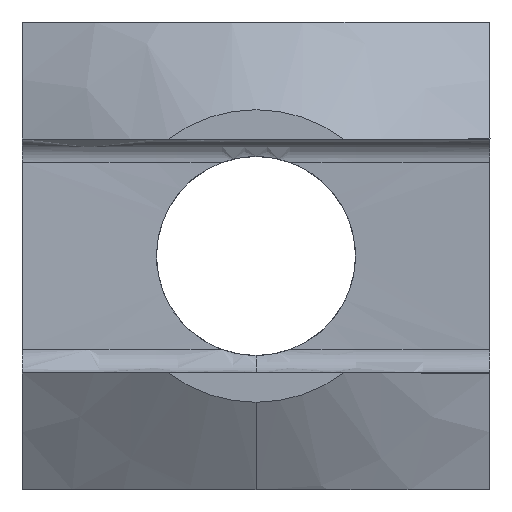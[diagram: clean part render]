
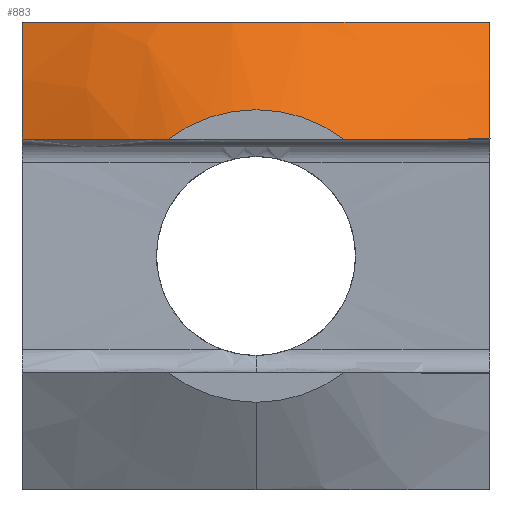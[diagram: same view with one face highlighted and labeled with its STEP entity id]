
A CAD part, left-side view. The second image highlights one B-rep face of the part: STEP entity #883.
In plain terms, the highlighted conical face has half-angle 60 degrees and reference radius 11.352 mm.
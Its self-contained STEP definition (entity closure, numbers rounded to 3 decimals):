
#47 = CARTESIAN_POINT ( 'NONE',  ( -8.555, 6.367, 4. ) ) ;
#48 = CARTESIAN_POINT ( 'NONE',  ( -6.355, -8., 8. ) ) ;
#51 = CARTESIAN_POINT ( 'NONE',  ( -10., 3., 4. ) ) ;
#60 = CARTESIAN_POINT ( 'NONE',  ( -8.143, 7.185, 4. ) ) ;
#63 = VERTEX_POINT ( 'NONE', #607 ) ;
#67 = ORIENTED_EDGE ( 'NONE', *, *, #988, .T. ) ;
#86 = CARTESIAN_POINT ( 'NONE',  ( -6.874, 8., 6.688 ) ) ;
#97 = CARTESIAN_POINT ( 'NONE',  ( -8.216, -1.371, 8. ) ) ;
#99 = CARTESIAN_POINT ( 'NONE',  ( -7.348, 5.424, 8. ) ) ;
#105 = CARTESIAN_POINT ( 'NONE',  ( -7.723, 8., 4. ) ) ;
#167 = CONICAL_SURFACE ( 'NONE', #1252, 11.352, 1.047 ) ;
#174 = VERTEX_POINT ( 'NONE', #219 ) ;
#196 = CARTESIAN_POINT ( 'NONE',  ( -7.873, 3.431, 8. ) ) ;
#219 = CARTESIAN_POINT ( 'NONE',  ( -7.723, -8., 4. ) ) ;
#239 = CARTESIAN_POINT ( 'NONE',  ( -10., 3., 4. ) ) ;
#257 = CARTESIAN_POINT ( 'NONE',  ( -7.546, -8., 4.684 ) ) ;
#261 = B_SPLINE_CURVE_WITH_KNOTS ( 'NONE', 3,
 ( #1183, #60, #47, #468, #1178, #984, #1286, #51 ),
 .UNSPECIFIED., .F., .F.,
 ( 4, 2, 2, 4 ),
 ( 0., 0.003, 0.004, 0.005 ),
 .UNSPECIFIED. ) ;
#275 = B_SPLINE_CURVE_WITH_KNOTS ( 'NONE', 3,
 ( #105, #1033, #429, #86, #1138, #531 ),
 .UNSPECIFIED., .F., .F.,
 ( 4, 2, 4 ),
 ( 0., 0.002, 0.004 ),
 .UNSPECIFIED. ) ;
#287 = CARTESIAN_POINT ( 'NONE',  ( -6.878, 6.719, 8. ) ) ;
#311 = CARTESIAN_POINT ( 'NONE',  ( -6.355, -8., 8. ) ) ;
#319 = CARTESIAN_POINT ( 'NONE',  ( -8.268, 0.344, 8. ) ) ;
#355 = EDGE_CURVE ( 'NONE', #892, #174, #357, .T. ) ;
#357 = B_SPLINE_CURVE_WITH_KNOTS ( 'NONE', 3,
 ( #557, #1280, #885, #979, #257, #782 ),
 .UNSPECIFIED., .F., .F.,
 ( 4, 2, 4 ),
 ( 0., 0.002, 0.004 ),
 .UNSPECIFIED. ) ;
#374 = CIRCLE ( 'NONE', #911, 5. ) ;
#375 = EDGE_CURVE ( 'NONE', #868, #1289, #374, .T. ) ;
#408 = EDGE_LOOP ( 'NONE', ( #568, #652, #67, #788, #676, #1044 ) ) ;
#416 = CARTESIAN_POINT ( 'NONE',  ( -6.617, -7.358, 8. ) ) ;
#421 = EDGE_CURVE ( 'NONE', #1008, #868, #261, .T. ) ;
#429 = CARTESIAN_POINT ( 'NONE',  ( -7.336, 8., 5.357 ) ) ;
#457 = DIRECTION ( 'NONE',  ( 0., 0., -1. ) ) ;
#460 = DIRECTION ( 'NONE',  ( 1., 0., 0. ) ) ;
#468 = CARTESIAN_POINT ( 'NONE',  ( -9.137, 5.122, 4. ) ) ;
#505 = CARTESIAN_POINT ( 'NONE',  ( -7.88, -3.4, 8. ) ) ;
#513 = CARTESIAN_POINT ( 'NONE',  ( -8.268, -0.688, 8. ) ) ;
#525 = CARTESIAN_POINT ( 'NONE',  ( -9.681, -3.861, 4. ) ) ;
#526 = CARTESIAN_POINT ( 'NONE',  ( -8.165, 1.731, 8. ) ) ;
#531 = CARTESIAN_POINT ( 'NONE',  ( -6.355, 8., 8. ) ) ;
#548 = CARTESIAN_POINT ( 'NONE',  ( -10., -3., 4. ) ) ;
#557 = CARTESIAN_POINT ( 'NONE',  ( -6.355, -8., 8. ) ) ;
#568 = ORIENTED_EDGE ( 'NONE', *, *, #421, .T. ) ;
#577 = CARTESIAN_POINT ( 'NONE',  ( -9.849, -3.435, 4. ) ) ;
#593 = B_SPLINE_CURVE_WITH_KNOTS ( 'NONE', 3,
 ( #548, #577, #525, #938, #614, #853, #1036, #1030 ),
 .UNSPECIFIED., .F., .F.,
 ( 4, 2, 2, 4 ),
 ( 0., 0.001, 0.003, 0.005 ),
 .UNSPECIFIED. ) ;
#607 = CARTESIAN_POINT ( 'NONE',  ( -6.355, 8., 8. ) ) ;
#608 = CARTESIAN_POINT ( 'NONE',  ( -7.322, -5.402, 8. ) ) ;
#614 = CARTESIAN_POINT ( 'NONE',  ( -9.137, -5.122, 4. ) ) ;
#619 = CARTESIAN_POINT ( 'NONE',  ( -8.255, 0.69, 8. ) ) ;
#625 = CARTESIAN_POINT ( 'NONE',  ( -8.022, -2.727, 8. ) ) ;
#652 = ORIENTED_EDGE ( 'NONE', *, *, #375, .T. ) ;
#676 = ORIENTED_EDGE ( 'NONE', *, *, #1216, .F. ) ;
#684 = DIRECTION ( 'NONE',  ( 0., 0., -1. ) ) ;
#697 = CARTESIAN_POINT ( 'NONE',  ( -6.355, 8., 8. ) ) ;
#722 = CARTESIAN_POINT ( 'NONE',  ( -6.866, -6.711, 8. ) ) ;
#724 = EDGE_CURVE ( 'NONE', #1008, #63, #275, .T. ) ;
#782 = CARTESIAN_POINT ( 'NONE',  ( -7.723, -8., 4. ) ) ;
#788 = ORIENTED_EDGE ( 'NONE', *, *, #355, .F. ) ;
#793 = B_SPLINE_CURVE_WITH_KNOTS ( 'NONE', 3,
 ( #697, #287, #99, #196, #1133, #526, #1016, #619, #319, #513, #97, #625, #505, #1218, #608, #722, #416, #311 ),
 .UNSPECIFIED., .F., .F.,
 ( 4, 2, 2, 2, 2, 2, 2, 2, 4 ),
 ( 0., 0.004, 0.006, 0.007, 0.008, 0.01, 0.012, 0.014, 0.016 ),
 .UNSPECIFIED. ) ;
#846 = FACE_OUTER_BOUND ( 'NONE', #408, .T. ) ;
#853 = CARTESIAN_POINT ( 'NONE',  ( -8.555, -6.367, 4. ) ) ;
#868 = VERTEX_POINT ( 'NONE', #239 ) ;
#883 = ADVANCED_FACE ( 'NONE', ( #846 ), #167, .T. ) ;
#885 = CARTESIAN_POINT ( 'NONE',  ( -6.874, -8., 6.688 ) ) ;
#892 = VERTEX_POINT ( 'NONE', #48 ) ;
#911 = AXIS2_PLACEMENT_3D ( 'NONE', #1070, #460, #684 ) ;
#938 = CARTESIAN_POINT ( 'NONE',  ( -9.325, -4.705, 4. ) ) ;
#979 = CARTESIAN_POINT ( 'NONE',  ( -7.336, -8., 5.357 ) ) ;
#984 = CARTESIAN_POINT ( 'NONE',  ( -9.681, 3.861, 4. ) ) ;
#988 = EDGE_CURVE ( 'NONE', #1289, #174, #593, .T. ) ;
#1008 = VERTEX_POINT ( 'NONE', #1258 ) ;
#1016 = CARTESIAN_POINT ( 'NONE',  ( -8.204, 1.384, 8. ) ) ;
#1030 = CARTESIAN_POINT ( 'NONE',  ( -7.723, -8., 4. ) ) ;
#1033 = CARTESIAN_POINT ( 'NONE',  ( -7.546, 8., 4.684 ) ) ;
#1036 = CARTESIAN_POINT ( 'NONE',  ( -8.143, -7.185, 4. ) ) ;
#1044 = ORIENTED_EDGE ( 'NONE', *, *, #724, .F. ) ;
#1050 = CARTESIAN_POINT ( 'NONE',  ( -10., -3., 4. ) ) ;
#1065 = CARTESIAN_POINT ( 'NONE',  ( -6.333, 0., 0. ) ) ;
#1070 = CARTESIAN_POINT ( 'NONE',  ( -10., 0., 0. ) ) ;
#1080 = DIRECTION ( 'NONE',  ( 1., 0., 0. ) ) ;
#1133 = CARTESIAN_POINT ( 'NONE',  ( -8.016, 2.759, 8. ) ) ;
#1138 = CARTESIAN_POINT ( 'NONE',  ( -6.622, 8., 7.347 ) ) ;
#1178 = CARTESIAN_POINT ( 'NONE',  ( -9.325, 4.705, 4. ) ) ;
#1183 = CARTESIAN_POINT ( 'NONE',  ( -7.723, 8., 4. ) ) ;
#1216 = EDGE_CURVE ( 'NONE', #63, #892, #793, .T. ) ;
#1218 = CARTESIAN_POINT ( 'NONE',  ( -7.53, -4.739, 8. ) ) ;
#1252 = AXIS2_PLACEMENT_3D ( 'NONE', #1065, #1080, #457 ) ;
#1258 = CARTESIAN_POINT ( 'NONE',  ( -7.723, 8., 4. ) ) ;
#1280 = CARTESIAN_POINT ( 'NONE',  ( -6.622, -8., 7.347 ) ) ;
#1286 = CARTESIAN_POINT ( 'NONE',  ( -9.849, 3.435, 4. ) ) ;
#1289 = VERTEX_POINT ( 'NONE', #1050 ) ;
